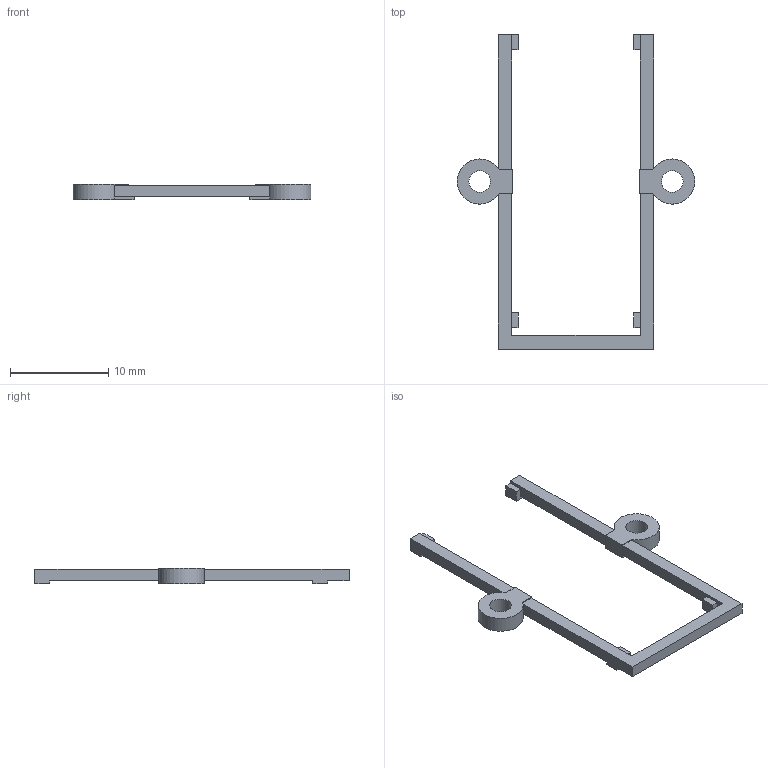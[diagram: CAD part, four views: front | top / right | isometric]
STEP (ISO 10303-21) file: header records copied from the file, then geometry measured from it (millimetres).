
FILE_DESCRIPTION(('Open CASCADE Model'),'2;1');
FILE_NAME('Open CASCADE Shape Model','2026-10-02T11:40:03',('Author'),( 'Open CASCADE'),'Open CASCADE STEP processor 7.9','Open CASCADE 7.9' ,'Unknown');
FILE_SCHEMA(('AUTOMOTIVE_DESIGN { 1 0 10303 214 1 1 1 1 }'));
Length unit declared in the file: millimetre
Products named in the file (1): Open CASCADE STEP translator 7.9 3
Bounding box: 24.2 x 32 x 1.6 mm (x, y, z)
Volume: 174.5 mm3; surface area: 525.3 mm2
Topology: 1 solids, 1 shells, 52 faces, 150 edges, 100 vertices
Faces by surface type: plane 48, cylinder 4
Full cylindrical faces by diameter (mm): 2.2 x2
Entity records: 3590 total; most frequent: CARTESIAN_POINT 707, DIRECTION 488, LINE 338, VECTOR 338, ORIENTED_EDGE 300, PCURVE 300, DEFINITIONAL_REPRESENTATION 300, EDGE_CURVE 150
